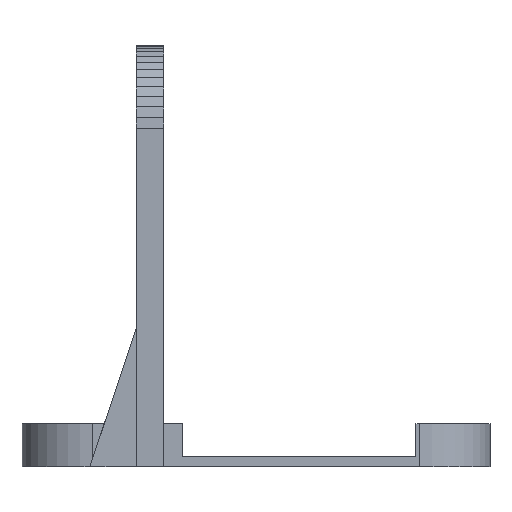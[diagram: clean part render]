
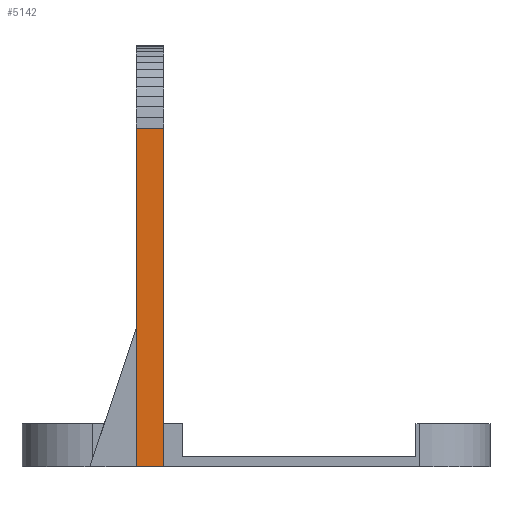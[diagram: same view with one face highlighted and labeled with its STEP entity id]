
A CAD part, left-side view. The second image highlights one B-rep face of the part: STEP entity #5142.
In plain terms, the highlighted planar face has unit normal (-1, 0, -0.016).
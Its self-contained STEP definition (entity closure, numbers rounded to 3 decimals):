
#44 = PLANE('',#45);
#45 = AXIS2_PLACEMENT_3D('',#46,#47,#48);
#46 = CARTESIAN_POINT('',(0.,0.,0.));
#47 = DIRECTION('',(0.,0.,1.));
#48 = DIRECTION('',(1.,0.,-0.));
#235 = PLANE('',#236);
#236 = AXIS2_PLACEMENT_3D('',#237,#238,#239);
#237 = CARTESIAN_POINT('',(-61.83,15.,32.564));
#238 = DIRECTION('',(0.,-1.,0.));
#239 = DIRECTION('',(1.,0.,0.));
#666 = PLANE('',#667);
#667 = AXIS2_PLACEMENT_3D('',#668,#669,#670);
#668 = CARTESIAN_POINT('',(-61.83,19.5,32.564));
#669 = DIRECTION('',(0.,-1.,0.));
#670 = DIRECTION('',(1.,0.,0.));
#763 = VERTEX_POINT('',#764);
#764 = CARTESIAN_POINT('',(-74.,19.5,0.));
#785 = EDGE_CURVE('',#763,#786,#788,.T.);
#786 = VERTEX_POINT('',#787);
#787 = CARTESIAN_POINT('',(-74.,15.,0.));
#788 = SURFACE_CURVE('',#789,(#793,#800),.PCURVE_S1.);
#789 = LINE('',#790,#791);
#790 = CARTESIAN_POINT('',(-74.,19.5,0.));
#791 = VECTOR('',#792,1.);
#792 = DIRECTION('',(0.,-1.,0.));
#793 = PCURVE('',#44,#794);
#794 = DEFINITIONAL_REPRESENTATION('',(#795),#799);
#795 = LINE('',#796,#797);
#796 = CARTESIAN_POINT('',(-74.,19.5));
#797 = VECTOR('',#798,1.);
#798 = DIRECTION('',(0.,-1.));
#799 = ( GEOMETRIC_REPRESENTATION_CONTEXT(2) 
PARAMETRIC_REPRESENTATION_CONTEXT() REPRESENTATION_CONTEXT('2D SPACE',''
  ) );
#800 = PCURVE('',#801,#806);
#801 = PLANE('',#802);
#802 = AXIS2_PLACEMENT_3D('',#803,#804,#805);
#803 = CARTESIAN_POINT('',(-74.9,19.5,55.));
#804 = DIRECTION('',(1.,0.,
    0.016));
#805 = DIRECTION('',(0.016,0.,
    -1.));
#806 = DEFINITIONAL_REPRESENTATION('',(#807),#811);
#807 = LINE('',#808,#809);
#808 = CARTESIAN_POINT('',(55.007,0.));
#809 = VECTOR('',#810,1.);
#810 = DIRECTION('',(0.,-1.));
#811 = ( GEOMETRIC_REPRESENTATION_CONTEXT(2) 
PARAMETRIC_REPRESENTATION_CONTEXT() REPRESENTATION_CONTEXT('2D SPACE',''
  ) );
#869 = VERTEX_POINT('',#870);
#870 = CARTESIAN_POINT('',(-74.9,15.,55.));
#884 = PLANE('',#885);
#885 = AXIS2_PLACEMENT_3D('',#886,#887,#888);
#886 = CARTESIAN_POINT('',(-74.785,19.5,56.762));
#887 = DIRECTION('',(0.998,0.,
    -0.065));
#888 = DIRECTION('',(-0.065,0.,
    -0.998));
#896 = EDGE_CURVE('',#869,#786,#897,.T.);
#897 = SURFACE_CURVE('',#898,(#902,#909),.PCURVE_S1.);
#898 = LINE('',#899,#900);
#899 = CARTESIAN_POINT('',(-74.9,15.,55.));
#900 = VECTOR('',#901,1.);
#901 = DIRECTION('',(0.016,0.,
    -1.));
#902 = PCURVE('',#235,#903);
#903 = DEFINITIONAL_REPRESENTATION('',(#904),#908);
#904 = LINE('',#905,#906);
#905 = CARTESIAN_POINT('',(-13.07,22.436));
#906 = VECTOR('',#907,1.);
#907 = DIRECTION('',(0.016,-1.));
#908 = ( GEOMETRIC_REPRESENTATION_CONTEXT(2) 
PARAMETRIC_REPRESENTATION_CONTEXT() REPRESENTATION_CONTEXT('2D SPACE',''
  ) );
#909 = PCURVE('',#801,#910);
#910 = DEFINITIONAL_REPRESENTATION('',(#911),#915);
#911 = LINE('',#912,#913);
#912 = CARTESIAN_POINT('',(0.,-4.5));
#913 = VECTOR('',#914,1.);
#914 = DIRECTION('',(1.,0.));
#915 = ( GEOMETRIC_REPRESENTATION_CONTEXT(2) 
PARAMETRIC_REPRESENTATION_CONTEXT() REPRESENTATION_CONTEXT('2D SPACE',''
  ) );
#3901 = VERTEX_POINT('',#3902);
#3902 = CARTESIAN_POINT('',(-74.9,19.5,55.));
#3923 = EDGE_CURVE('',#3901,#763,#3924,.T.);
#3924 = SURFACE_CURVE('',#3925,(#3929,#3936),.PCURVE_S1.);
#3925 = LINE('',#3926,#3927);
#3926 = CARTESIAN_POINT('',(-74.9,19.5,55.));
#3927 = VECTOR('',#3928,1.);
#3928 = DIRECTION('',(0.016,0.,
    -1.));
#3929 = PCURVE('',#666,#3930);
#3930 = DEFINITIONAL_REPRESENTATION('',(#3931),#3935);
#3931 = LINE('',#3932,#3933);
#3932 = CARTESIAN_POINT('',(-13.07,22.436));
#3933 = VECTOR('',#3934,1.);
#3934 = DIRECTION('',(0.016,-1.));
#3935 = ( GEOMETRIC_REPRESENTATION_CONTEXT(2) 
PARAMETRIC_REPRESENTATION_CONTEXT() REPRESENTATION_CONTEXT('2D SPACE',''
  ) );
#3936 = PCURVE('',#801,#3937);
#3937 = DEFINITIONAL_REPRESENTATION('',(#3938),#3942);
#3938 = LINE('',#3939,#3940);
#3939 = CARTESIAN_POINT('',(0.,0.));
#3940 = VECTOR('',#3941,1.);
#3941 = DIRECTION('',(1.,0.));
#3942 = ( GEOMETRIC_REPRESENTATION_CONTEXT(2) 
PARAMETRIC_REPRESENTATION_CONTEXT() REPRESENTATION_CONTEXT('2D SPACE',''
  ) );
#5142 = ADVANCED_FACE('',(#5143),#801,.F.);
#5143 = FACE_BOUND('',#5144,.F.);
#5144 = EDGE_LOOP('',(#5145,#5166,#5167,#5168));
#5145 = ORIENTED_EDGE('',*,*,#5146,.T.);
#5146 = EDGE_CURVE('',#3901,#869,#5147,.T.);
#5147 = SURFACE_CURVE('',#5148,(#5152,#5159),.PCURVE_S1.);
#5148 = LINE('',#5149,#5150);
#5149 = CARTESIAN_POINT('',(-74.9,19.5,55.));
#5150 = VECTOR('',#5151,1.);
#5151 = DIRECTION('',(0.,-1.,0.));
#5152 = PCURVE('',#801,#5153);
#5153 = DEFINITIONAL_REPRESENTATION('',(#5154),#5158);
#5154 = LINE('',#5155,#5156);
#5155 = CARTESIAN_POINT('',(0.,0.));
#5156 = VECTOR('',#5157,1.);
#5157 = DIRECTION('',(0.,-1.));
#5158 = ( GEOMETRIC_REPRESENTATION_CONTEXT(2) 
PARAMETRIC_REPRESENTATION_CONTEXT() REPRESENTATION_CONTEXT('2D SPACE',''
  ) );
#5159 = PCURVE('',#884,#5160);
#5160 = DEFINITIONAL_REPRESENTATION('',(#5161),#5165);
#5161 = LINE('',#5162,#5163);
#5162 = CARTESIAN_POINT('',(1.766,0.));
#5163 = VECTOR('',#5164,1.);
#5164 = DIRECTION('',(0.,-1.));
#5165 = ( GEOMETRIC_REPRESENTATION_CONTEXT(2) 
PARAMETRIC_REPRESENTATION_CONTEXT() REPRESENTATION_CONTEXT('2D SPACE',''
  ) );
#5166 = ORIENTED_EDGE('',*,*,#896,.T.);
#5167 = ORIENTED_EDGE('',*,*,#785,.F.);
#5168 = ORIENTED_EDGE('',*,*,#3923,.F.);
